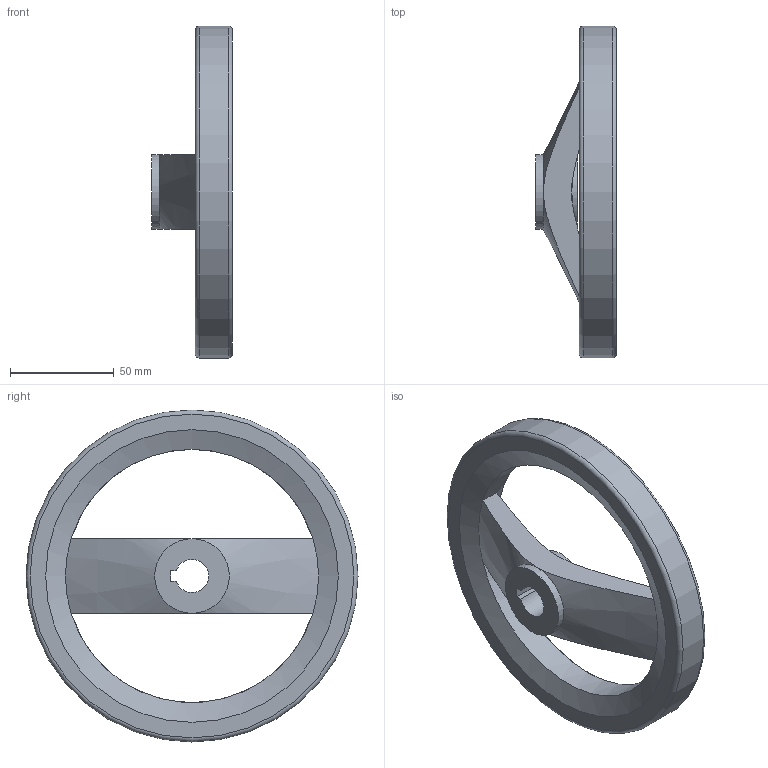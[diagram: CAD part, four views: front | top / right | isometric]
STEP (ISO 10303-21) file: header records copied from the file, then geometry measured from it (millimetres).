
FILE_DESCRIPTION( ( 'STEP AP203' ), '1' );
FILE_NAME( 'C:/Temp/Ganter_Step_05_03_2020/data/1_3/gn_324/gn_324_k/gn_324_k_a/Handwheel, matt black GN 324-160-K16-A.stp', '2020-03-05T10:33:00', ( 'License CC BY-ND 4.0' ), ( 'CADENAS' ), ' ', 'PARTsolutions', ' ' );
FILE_SCHEMA( ( 'CONFIG_CONTROL_DESIGN' ) );
Length unit declared in the file: millimetre
Products named in the file (1): _Handwheel, matt black GN 324-160-K16-A
Bounding box: 39 x 160 x 160 mm (x, y, z)
Volume: 197682.8 mm3; surface area: 43302.3 mm2
Topology: 1 solids, 1 shells, 22 faces, 52 edges, 30 vertices
Faces by surface type: plane 9, cone 6, cylinder 5, torus 2
Full cylindrical faces by diameter (mm): 36 x2, 122 x1, 160 x1
Entity records: 760 total; most frequent: CARTESIAN_POINT 239, DIRECTION 102, ORIENTED_EDGE 86, AXIS2_PLACEMENT_3D 44, EDGE_CURVE 43, EDGE_LOOP 34, VERTEX_POINT 29, FACE_OUTER_BOUND 28
